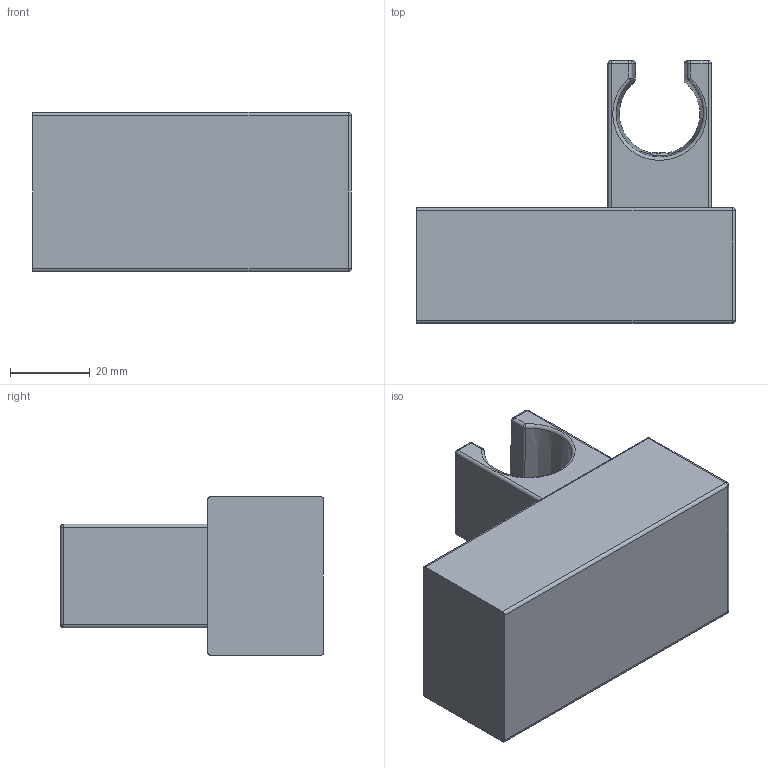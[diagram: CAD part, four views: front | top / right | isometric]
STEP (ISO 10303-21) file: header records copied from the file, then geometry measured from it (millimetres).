
FILE_DESCRIPTION(('STEP AP242'), '1');
FILE_NAME('82CR185', '', ('UNSPECIFIED'), ('UNSPECIFIED'), 'ASCON STEP Converter 1.6', 'ASCON Math Kernel', '');
FILE_SCHEMA(('AP242_MANAGED_MODEL_BASED_3D_ENGINEERING_MIM_LF { 1 0 10303 442 1 1 4 }'));
Length unit declared in the file: millimetre
Bounding box: 80 x 66 x 40 mm (x, y, z)
Volume: 107421.7 mm3; surface area: 17431.2 mm2
Topology: 1 solids, 2 shells, 102 faces, 248 edges, 135 vertices
Faces by surface type: cylinder 34, plane 32, bspline 25, sphere 8, torus 2, cone 1
Full cylindrical faces by diameter (mm): 4 x1
Entity records: 7001 total; most frequent: CARTESIAN_POINT 4053, ORIENTED_EDGE 454, DIRECTION 380, EDGE_CURVE 227, AXIS2_PLACEMENT_3D 142, VERTEX_POINT 134, EDGE_LOOP 109, FACE_BOUND 106
